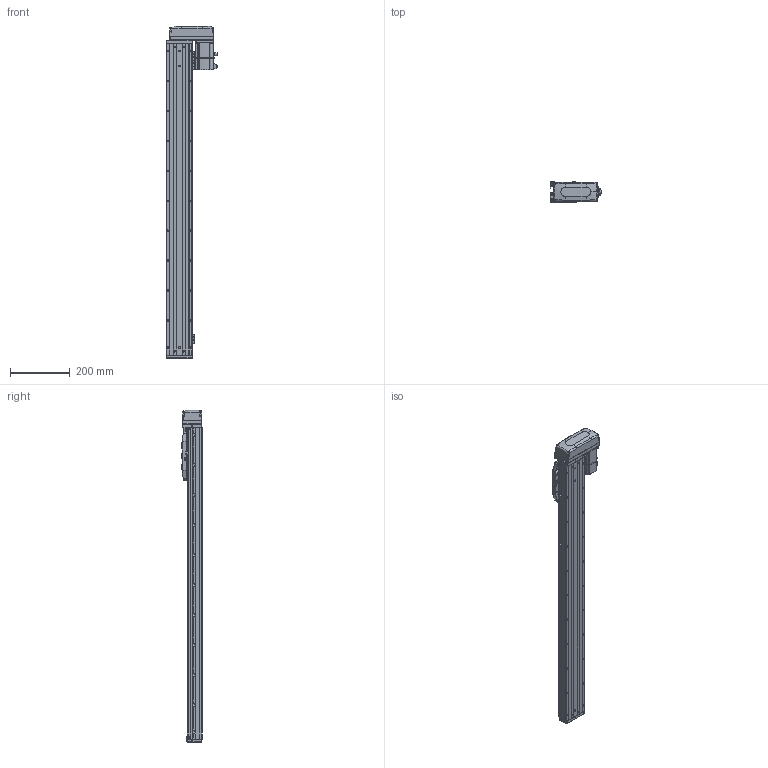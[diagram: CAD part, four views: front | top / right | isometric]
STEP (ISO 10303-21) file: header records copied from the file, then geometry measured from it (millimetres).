
FILE_DESCRIPTION (( 'STEP AP203' ), '1' );
FILE_NAME ('CTHA86-850-BL-M20-C4L.step', '2022-04-26T00:52:43', ( '微软用户' ), ( '微软中国' ), 'SwSTEP 2.0', 'SolidWorks 2020', '' );
FILE_SCHEMA (( 'CONFIG_CONTROL_DESIGN' ));
Length unit declared in the file: millimetre
Products named in the file (21): GBT 70.1-M3℅6; CTHA86-015-1_CTHA86-015-2; CTHA60-017; CTHA60-016; CTHA86-033; CTHA60-021; _X2_4E0983F1_X0_200W_1; CTHA86-850-BL-M20-C4L; KTHA86-001_1040; GBT77-2000 M3×3; CTHA86-002; KTHA86-004; GBT 70.1-M3×20; CTHA86-031; KTHA86-005; GBT70.1 M5℅16; CTHA86-030; GB¨uT 70.2-M3¡Á5_M3¡Á6; GBT 70.1-M3×16; GBT 70.3-M3℅6; EE_SX911P_R
Assembly tree (66 placements, depth 2):
  CTHA86-850-BL-M20-C4L
    KTHA86-001_1040
    KTHA86-004
    KTHA86-005
    GB¨uT 70.2-M3¡Á5_M3¡Á6  x10
    EE_SX911P_R  x3
    CTHA60-017  x3
    CTHA60-021  x2
    GBT77-2000 M3×3  x6
    GBT 70.1-M3×20
    GBT70.1 M5℅16  x14
    GBT 70.1-M3×16  x5
    GBT 70.1-M3℅6  x6
    CTHA60-016  x2
    _X2_4E0983F1_X0_200W_1
    CTHA86-002
    CTHA86-031
    CTHA86-030  x2
    GBT 70.3-M3℅6  x4
    CTHA86-015-1_CTHA86-015-2
    CTHA86-033
Bounding box: 172.7 x 68 x 1109 mm (x, y, z)
Volume: 4191631.4 mm3; surface area: 716205.1 mm2
Topology: 68 solids, 68 shells, 2826 faces, 6764 edges, 4168 vertices
Faces by surface type: plane 1487, cylinder 735, cone 373, torus 132, bspline 75, sphere 24
Entity records: 50373 total; most frequent: CARTESIAN_POINT 9731, DIRECTION 7849, ORIENTED_EDGE 7628, EDGE_CURVE 3814, AXIS2_PLACEMENT_3D 2670, LINE 2509, VECTOR 2509, VERTEX_POINT 2400
